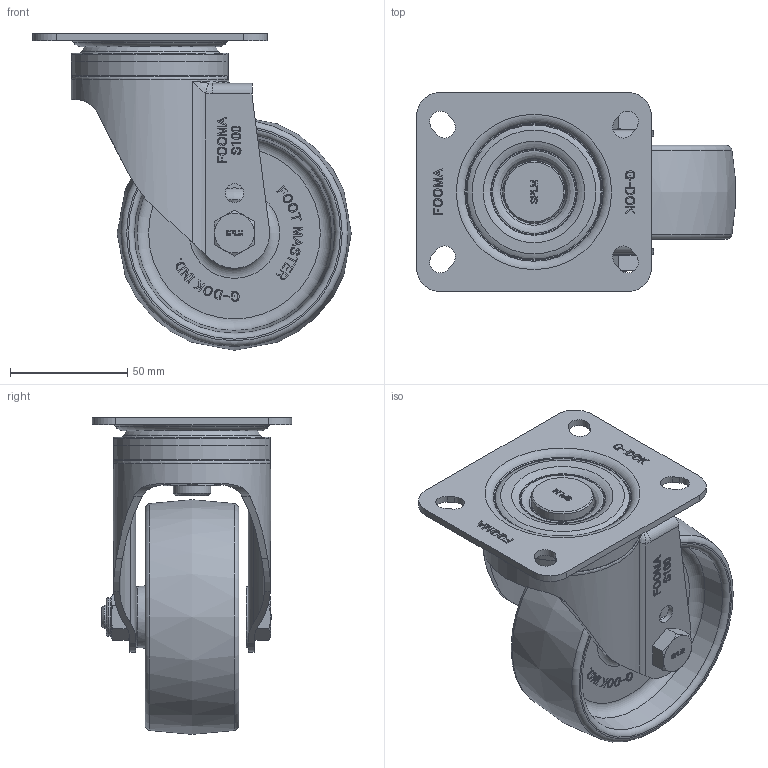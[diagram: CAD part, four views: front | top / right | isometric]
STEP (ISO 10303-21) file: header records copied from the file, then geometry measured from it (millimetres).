
FILE_DESCRIPTION(/* description */ (''),/* implementation_level */ '2;1');
FILE_NAME(/* name */ '\\192.168.10.38\지덕공유\1.기술연구소\2.연구개발 완료\완료_98.스테인레스캐스터 개발건_2023.10.26\제품설계\3D\홈페이지용\NYP\STP\SPLM-100-ASF-NYP-PEU.stp',/* time_stamp */ '2025-07-17T16:23:06+09:00',/* author */ ('admin'),/* organization */ ('지덕산업'),/* preprocessor_version */ 'ST-DEVELOPER v18.1',/* originating_system */ 'Autodesk Inventor 2021',/* authorisation */ '');
FILE_SCHEMA (('CONFIG_CONTROL_DESIGN'));
Length unit declared in the file: millimetre
Products named in the file (1): SPLM-100-ASF-NYP-PEU
Bounding box: 135.82 x 85 x 135 mm (x, y, z)
Volume: 268540.6 mm3; surface area: 82059.5 mm2
Topology: 1 solids, 1 shells, 1257 faces, 3401 edges, 2249 vertices
Faces by surface type: plane 617, bspline 456, cylinder 97, cone 51, torus 36
Full cylindrical faces by diameter (mm): 8 x2, 10 x1, 11 x1, 16 x2, 16.5 x1, 26.6 x1, 54 x1, 67 x1
Entity records: 40739 total; most frequent: CARTESIAN_POINT 12308, ORIENTED_EDGE 6794, DIRECTION 4240, EDGE_CURVE 3397, VERTEX_POINT 2249, LINE 1996, VECTOR 1996, EDGE_LOOP 1378
